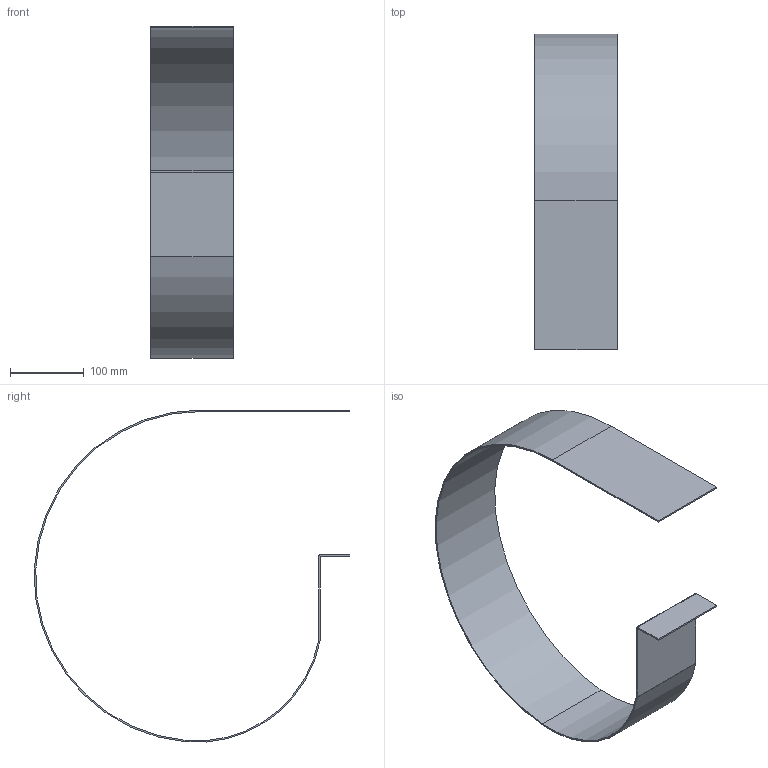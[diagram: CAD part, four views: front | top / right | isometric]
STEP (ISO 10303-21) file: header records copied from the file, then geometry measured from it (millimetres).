
FILE_DESCRIPTION (( 'STEP AP203' ), '1' );
FILE_NAME ('Enveloppe venturi Rep506.STEP', '2016-05-05T08:31:53', ( '' ), ( '' ), 'SwSTEP 2.0', 'SolidWorks 2014', '' );
FILE_SCHEMA (( 'CONFIG_CONTROL_DESIGN' ));
Length unit declared in the file: millimetre
Products named in the file (1): Enveloppe venturi Rep506
Bounding box: 112 x 426.87 x 449.31 mm (x, y, z)
Volume: 288809.6 mm3; surface area: 294414.9 mm2
Topology: 1 solids, 1 shells, 30 faces, 60 edges, 32 vertices
Faces by surface type: plane 22, cylinder 8
Entity records: 825 total; most frequent: DIRECTION 138, CARTESIAN_POINT 123, ORIENTED_EDGE 120, EDGE_CURVE 60, AXIS2_PLACEMENT_3D 47, VECTOR 44, LINE 44, VERTEX_POINT 32
